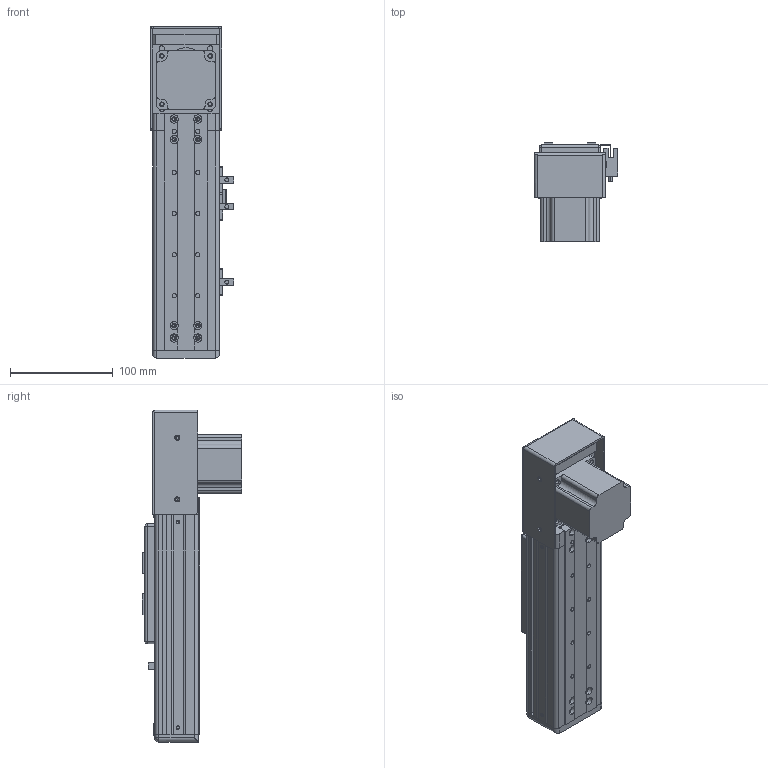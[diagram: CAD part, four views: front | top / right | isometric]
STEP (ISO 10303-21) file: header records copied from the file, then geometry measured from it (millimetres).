
FILE_DESCRIPTION (( 'STEP AP203' ), '1' );
FILE_NAME ('RY60F-T-350-DK.SLDASM_50.step', '2021-03-02T00:55:52', ( '盈信电脑' ), ( '东莞市道滘镇水果街19号' ), 'SwSTEP 2.0', 'SolidWorks 2012', '' );
FILE_SCHEMA (( 'CONFIG_CONTROL_DESIGN' ));
Length unit declared in the file: millimetre
Products named in the file (19): RY60F-肮祭湍臏賑輸; RY60F-T-350-DK.SLDASM_50; 57祭輛萇儂; RY60F-T-狟殏欶; RY60F-肮祭湍揤輸2; RY60F-肮祭湍揤輸; RY60F-T-57萇儂奻殏假蚾啣; 滅袉蝶18-24; RY60F-T-下折同步带拉紧板; RY60F-350-肮祭湍滅鳥詩え-DK_50; 覜茼ん672; RY60F-350肮祭湍俋褲-DK_50; RY50F-350-MR15W絳寢-DK_50; RY60F-祥凄詩滅鳥裔; RY60F-嫖萇羲壽結え; RY60F-T-下折57电机端同步轮座; RY50-60詩湍揤啣; RY60F-滅鳥詩え盓殤; RY60F-浮动端同步轮支撑座
Assembly tree (23 placements, depth 2):
  RY60F-T-350-DK.SLDASM_50
    RY60F-肮祭湍臏賑輸
    RY60F-浮动端同步轮支撑座
    RY60F-滅鳥詩え盓殤
    RY60F-嫖萇羲壽結え
    RY50-60詩湍揤啣  x2
    RY60F-祥凄詩滅鳥裔
    RY60F-T-下折57电机端同步轮座
    RY60F-350肮祭湍俋褲-DK_50  x2
    覜茼ん672  x3
    RY60F-350-肮祭湍滅鳥詩え-DK_50
    RY50F-350-MR15W絳寢-DK_50
    滅袉蝶18-24  x2
    RY60F-T-57萇儂奻殏假蚾啣
    RY60F-T-下折同步带拉紧板
    RY60F-肮祭湍揤輸
    RY60F-肮祭湍揤輸2
    57祭輛萇儂
    RY60F-T-狟殏欶
Bounding box: 80.76 x 96.5 x 323 mm (x, y, z)
Volume: 586496.8 mm3; surface area: 292346.5 mm2
Topology: 23 solids, 23 shells, 1122 faces, 3062 edges, 1964 vertices
Faces by surface type: plane 546, cylinder 495, cone 71, bspline 10
Entity records: 34197 total; most frequent: CARTESIAN_POINT 6241, DIRECTION 5468, ORIENTED_EDGE 5300, EDGE_CURVE 2650, AXIS2_PLACEMENT_3D 1899, VERTEX_POINT 1732, VECTOR 1670, LINE 1670
